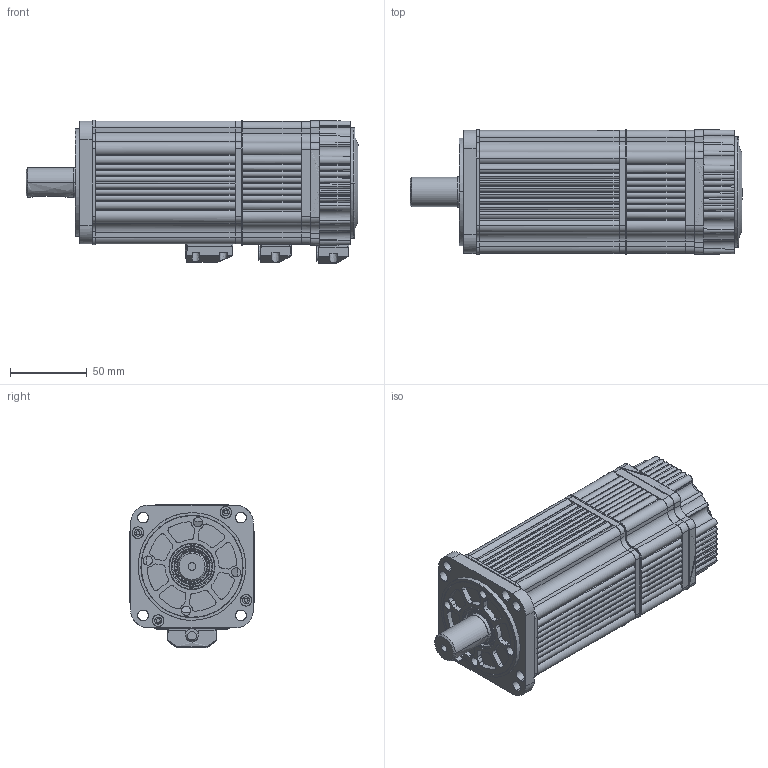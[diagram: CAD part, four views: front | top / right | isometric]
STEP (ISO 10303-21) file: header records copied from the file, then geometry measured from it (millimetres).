
FILE_DESCRIPTION (( 'STEP AP203' ), '1' );
FILE_NAME ('EMJ-08(APB,AFB,AFD,DFD)（with holding brake）.STEP', '2020-03-30T02:20:22', ( '' ), ( '' ), 'SwSTEP 2.0', 'SolidWorks 2018', '' );
FILE_SCHEMA (( 'CONFIG_CONTROL_DESIGN' ));
Length unit declared in the file: millimetre
Products named in the file (1): EMJ-08(APB,AFB,AFD,DFD)（with holding brake）
Bounding box: 216 x 81.19 x 93.38 mm (x, y, z)
Surface area: 98501.6 mm2 (no closed solid volume)
Topology: 0 solids, 9 shells, 745 faces, 2375 edges, 1625 vertices
Faces by surface type: bspline 745
Entity records: 31438 total; most frequent: CARTESIAN_POINT 18775, ORIENTED_EDGE 4239, EDGE_CURVE 2369, VERTEX_POINT 1625, B_SPLINE_CURVE_WITH_KNOTS 1602, EDGE_LOOP 876, FACE_OUTER_BOUND 745, ADVANCED_FACE 745
